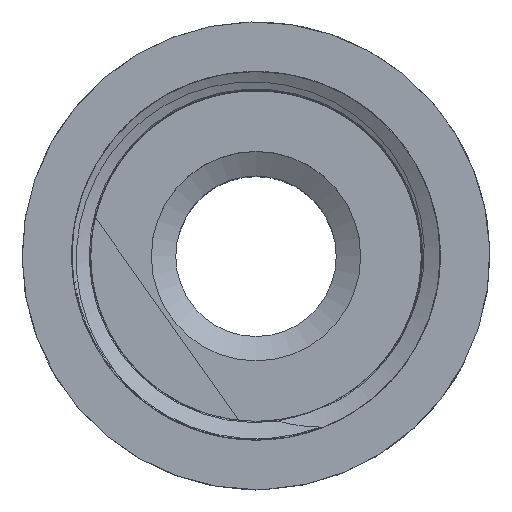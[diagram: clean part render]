
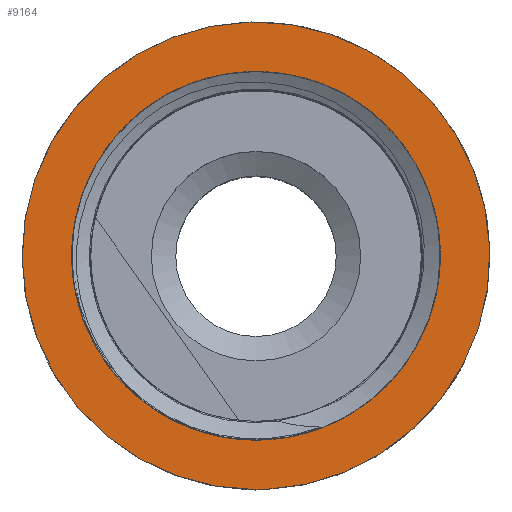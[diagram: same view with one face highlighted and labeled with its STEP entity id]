
A CAD part, top view. The second image highlights one B-rep face of the part: STEP entity #9164.
In plain terms, the highlighted planar face has unit normal (0, 0, 1).
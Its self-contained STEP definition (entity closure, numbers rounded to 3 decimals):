
#449=PLANE('',#9528);
#542=FACE_BOUND('',#1541,.T.);
#1003=FACE_OUTER_BOUND('',#1540,.T.);
#1540=EDGE_LOOP('',(#8299,#8300));
#1541=EDGE_LOOP('',(#8301,#8302));
#3402=CIRCLE('',#9526,13.2);
#3403=CIRCLE('',#9527,13.2);
#3404=CIRCLE('',#9529,16.75);
#3405=CIRCLE('',#9530,16.75);
#4328=VERTEX_POINT('',#21195);
#4329=VERTEX_POINT('',#21197);
#4330=VERTEX_POINT('',#21201);
#4331=VERTEX_POINT('',#21202);
#5690=EDGE_CURVE('',#4329,#4328,#3402,.T.);
#5691=EDGE_CURVE('',#4328,#4329,#3403,.T.);
#5692=EDGE_CURVE('',#4330,#4331,#3404,.T.);
#5693=EDGE_CURVE('',#4331,#4330,#3405,.T.);
#8299=ORIENTED_EDGE('',*,*,#5692,.F.);
#8300=ORIENTED_EDGE('',*,*,#5693,.F.);
#8301=ORIENTED_EDGE('',*,*,#5690,.T.);
#8302=ORIENTED_EDGE('',*,*,#5691,.T.);
#9164=ADVANCED_FACE('',(#1003,#542),#449,.T.);
#9526=AXIS2_PLACEMENT_3D('',#21198,#10705,#10706);
#9527=AXIS2_PLACEMENT_3D('',#21199,#10707,#10708);
#9528=AXIS2_PLACEMENT_3D('',#21200,#10709,#10710);
#9529=AXIS2_PLACEMENT_3D('',#21203,#10711,#10712);
#9530=AXIS2_PLACEMENT_3D('',#21204,#10713,#10714);
#10705=DIRECTION('center_axis',(0.,0.,-1.));
#10706=DIRECTION('ref_axis',(1.,0.,0.));
#10707=DIRECTION('center_axis',(0.,0.,-1.));
#10708=DIRECTION('ref_axis',(1.,0.,0.));
#10709=DIRECTION('center_axis',(0.,0.,1.));
#10710=DIRECTION('ref_axis',(1.,0.,0.));
#10711=DIRECTION('center_axis',(0.,0.,-1.));
#10712=DIRECTION('ref_axis',(1.,0.,0.));
#10713=DIRECTION('center_axis',(0.,0.,-1.));
#10714=DIRECTION('ref_axis',(1.,0.,0.));
#21195=CARTESIAN_POINT('',(0.,-13.2,49.5));
#21197=CARTESIAN_POINT('',(0.,13.2,49.5));
#21198=CARTESIAN_POINT('Origin',(0.,0.,49.5));
#21199=CARTESIAN_POINT('Origin',(0.,0.,49.5));
#21200=CARTESIAN_POINT('Origin',(0.,16.75,49.5));
#21201=CARTESIAN_POINT('',(0.715,-16.735,49.5));
#21202=CARTESIAN_POINT('',(0.,-16.75,49.5));
#21203=CARTESIAN_POINT('Origin',(0.,0.,49.5));
#21204=CARTESIAN_POINT('Origin',(0.,0.,49.5));
